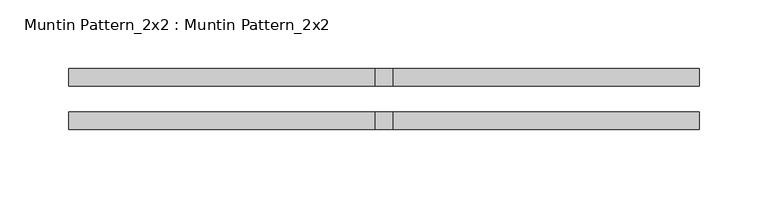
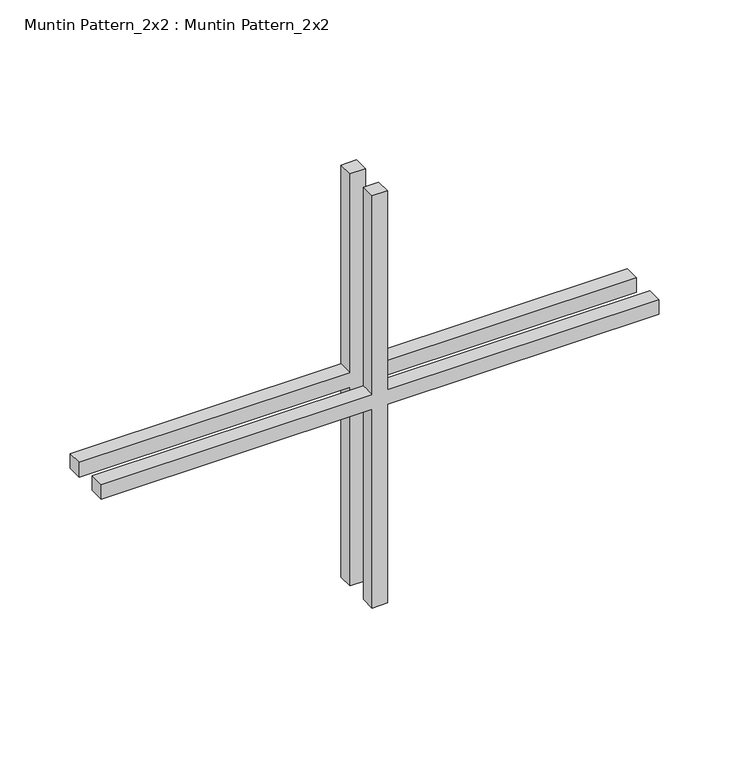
"""IFC4 building model written with IfcOpenShell, lengths in millimetres: proxy geometry, Muntin Pattern_2x2 : Muntin Pattern_2x2."""

from ifc_helpers import new_model, si_unit, frame, origin, place, context, project, spatial, polyline, outline, extrude, source, transform, mapped, element, save


def muntin_pattern_2x2_muntin_pattern_2x2_7c8e65e2(model_context):
    return source(origin(), model_context, "Body", "SweptSolid", [
        extrude(outline(polyline([(185.7375, -6.35), (185.7375, -229.6583333), (173.0375, -229.6583333), (173.0375, -6.35), (0.0, -6.35), (0.0, 6.35), (173.0375, 6.35), (173.0375, 229.6583333), (185.7375, 229.6583333), (185.7375, 6.35), (358.775, 6.35), (358.775, -6.35), (185.7375, -6.35)])), frame((0.0, -22.225, 0.0), z_axis=(0.0, 1.0, 0.0), x_axis=(0.0, 0.0, 1.0)), (0.0, 0.0, 1.0), 12.7),
        extrude(outline(polyline([(185.7375, -6.35), (185.7375, -229.6583333), (173.0375, -229.6583333), (173.0375, -6.35), (0.0, -6.35), (0.0, 6.35), (173.0375, 6.35), (173.0375, 229.6583333), (185.7375, 229.6583333), (185.7375, 6.35), (358.775, 6.35), (358.775, -6.35), (185.7375, -6.35)])), frame((0.0, 9.525, 0.0), z_axis=(0.0, 1.0, 0.0), x_axis=(0.0, 0.0, 1.0)), (0.0, 0.0, 1.0), 12.7),
    ])


if __name__ == "__main__":
    model = new_model("IFC4")
    model_context = context("Model", 3, world=origin())
    ifc_project = project(units=[si_unit("LENGTHUNIT", "METRE", prefix="MILLI")], contexts=[model_context])
    site = spatial("IfcSite", under=ifc_project)
    building = spatial("IfcBuilding", under=site)
    placement = place(None, origin())
    muntin_pattern_2x2_muntin_pattern_2x2_shape = muntin_pattern_2x2_muntin_pattern_2x2_7c8e65e2(model_context)
    element("IfcBuildingElementProxy", 1, Name="Muntin Pattern_2x2 : Muntin Pattern_2x2", ObjectType="Muntin Pattern_2x2 : Muntin Pattern_2x2", at=placement, inside=building, context=model_context, shape_type="MappedRepresentation", body=[
        mapped(muntin_pattern_2x2_muntin_pattern_2x2_shape, transform((0.0, 0.0, 0.0), x_axis=(1.0, 0.0, 0.0), y_axis=(0.0, 1.0, 0.0), z_axis=(0.0, 0.0, 1.0))),
    ])
    save(model, "model.ifc")
